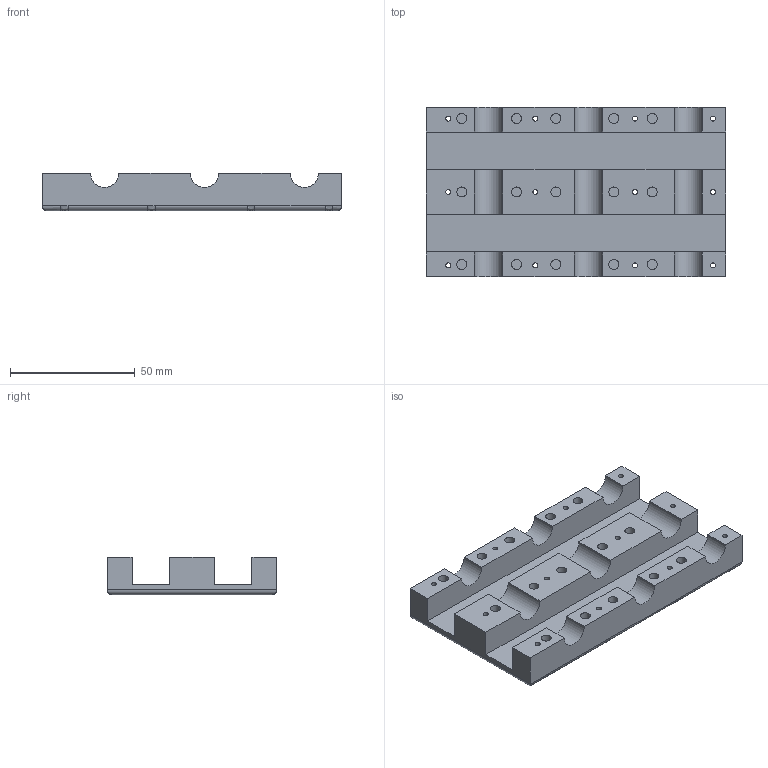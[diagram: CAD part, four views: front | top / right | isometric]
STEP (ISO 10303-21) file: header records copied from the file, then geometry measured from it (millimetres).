
FILE_DESCRIPTION(('STEP AP203'), '1');
FILE_NAME('êðûøêà íà êîëêè', '', ('UNSPECIFIED'), ('UNSPECIFIED'), 'ASCON STEP Converter 1.3', 'ASCON Math Kernel', '');
FILE_SCHEMA(('CONFIG_CONTROL_DESIGN'));
Length unit declared in the file: millimetre
Bounding box: 120 x 68 x 15 mm (x, y, z)
Volume: 74709 mm3; surface area: 28283.6 mm2
Topology: 1 solids, 1 shells, 106 faces, 271 edges, 174 vertices
Faces by surface type: cylinder 48, plane 38, cone 12, bspline 8
Full cylindrical faces by diameter (mm): 2 x12, 4 x15
Entity records: 4652 total; most frequent: CARTESIAN_POINT 1261, DIRECTION 530, ORIENTED_EDGE 464, EDGE_CURVE 232, AXIS2_PLACEMENT_3D 219, EDGE_LOOP 176, VERTEX_POINT 174, FACE_BOUND 130
